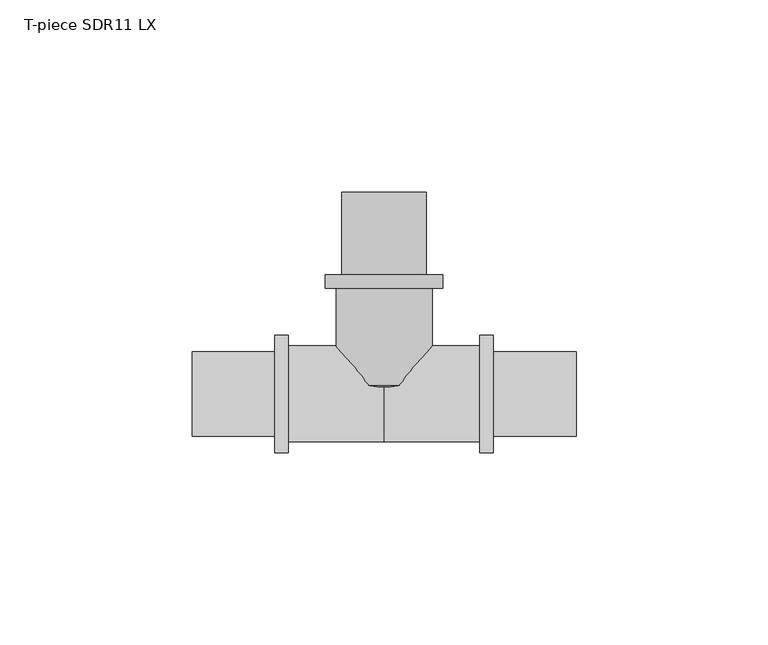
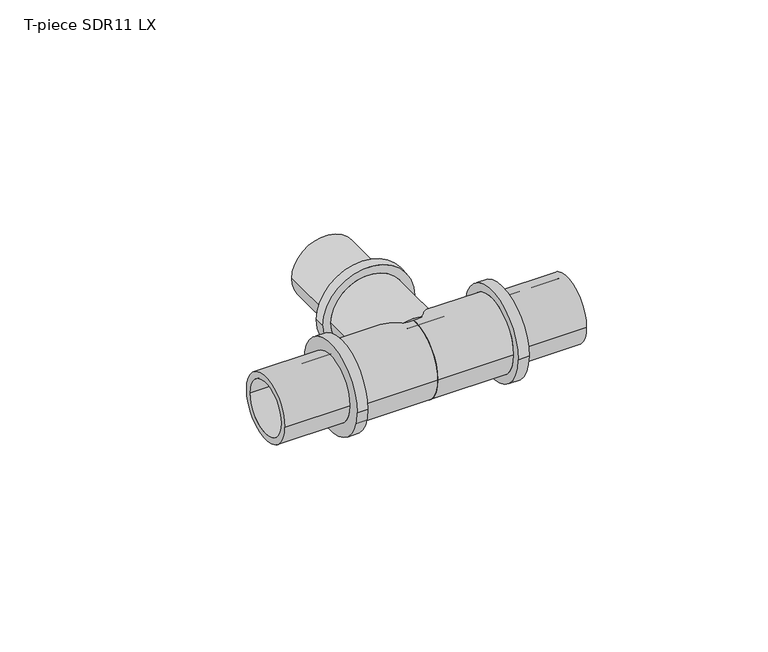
"""IFC4 building model written with IfcOpenShell, lengths in millimetres: pipe fitting geometry, T-piece SDR11 LX : T-piece LX SDR11 LX."""

import ifcopenshell
import ifcopenshell.guid

model = None  # the IFC model being written
_history = None  # IfcOwnerHistory: only IFC2X3 demands one
_inside = {}  # id of a spatial element -> (the spatial element, [elements in it])
_under = {}  # id of a project, library or spatial element -> (it, [spatial elements below it])
_declared = {}  # id of a project -> (the project, [libraries it declares])
_typed = {}  # id of a type object -> (the type object, [elements of that type])
_made_of = {}  # id of a material, layer set ... -> (it, [elements and type objects made of it])


def new_model(schema):
    """Start an empty IFC model of exactly this schema.

    Asked for "IFC4X3", IfcOpenShell would pick the latest addendum, in which some entities
    have other attributes; the version numbers below select the first issue.
    IFC2X3 requires an IfcOwnerHistory on every rooted entity: one is made here for all.
    """
    global model, _history
    if schema == "IFC4X3":
        model = ifcopenshell.file(schema_version=(4, 3, 0, 0))
    else:
        model = ifcopenshell.file(schema=schema)
    _inside.clear()
    _under.clear()
    _declared.clear()
    _typed.clear()
    _made_of.clear()
    _history = None
    if model.schema == "IFC2X3":
        org = make("IfcOrganization", Name="unknown")
        user = make(
            "IfcPersonAndOrganization",
            ThePerson=make("IfcPerson", FamilyName="unknown"),
            TheOrganization=org,
        )
        app = make(
            "IfcApplication",
            ApplicationDeveloper=org,
            Version="unknown",
            ApplicationFullName="unknown",
            ApplicationIdentifier="unknown",
        )
        _history = make(
            "IfcOwnerHistory",
            OwningUser=user,
            OwningApplication=app,
            ChangeAction="ADDED",
            CreationDate=0,
        )
    return model


def make(cls, **values):
    """One entity of the class cls with the attributes given. An attribute that is None is left unset."""
    return model.create_entity(
        cls, **{name: value for name, value in values.items() if value is not None}
    )


def rooted(cls, **values):
    """An entity with a GlobalId (a new one), such as an element, a storey or a relation."""
    return make(cls, GlobalId=ifcopenshell.guid.new(), OwnerHistory=_history, **values)


def si_unit(unit_type, name, prefix=None):
    """IfcSIUnit, for example si_unit("LENGTHUNIT", "METRE", prefix="MILLI")."""
    return make("IfcSIUnit", UnitType=unit_type, Prefix=prefix, Name=name)


def assignment(units):
    """IfcUnitAssignment: the units of a project."""
    return None if units is None else make("IfcUnitAssignment", Units=units)


def point(xyz):
    """IfcCartesianPoint."""
    return None if xyz is None else make("IfcCartesianPoint", Coordinates=xyz)


def direction(xyz):
    """IfcDirection."""
    return None if xyz is None else make("IfcDirection", DirectionRatios=xyz)


def frame(location, z_axis=None, x_axis=None):
    """IfcAxis2Placement3D, a coordinate frame: its origin and axes. An axis left out is left unset."""
    return make(
        "IfcAxis2Placement3D",
        Location=point(location),
        Axis=direction(z_axis),
        RefDirection=direction(x_axis),
    )


def origin():
    """The frame at (0, 0, 0) with its axes left unset."""
    return frame((0.0, 0.0, 0.0))


def place(relative_to, where):
    """IfcLocalPlacement: puts the frame where relative to a parent placement (None: the world)."""
    return make(
        "IfcLocalPlacement", PlacementRelTo=relative_to, RelativePlacement=where
    )


def context(
    kind, dimensions, precision=None, world=None, true_north=None, identifier=None
):
    """IfcGeometricRepresentationContext, for example the 3D "Model" context."""
    return make(
        "IfcGeometricRepresentationContext",
        ContextIdentifier=identifier,
        ContextType=kind,
        CoordinateSpaceDimension=dimensions,
        Precision=precision,
        WorldCoordinateSystem=world,
        TrueNorth=true_north,
    )


def project(units=None, contexts=None):
    """IfcProject with its units and contexts."""
    return rooted(
        "IfcProject",
        Name="project",
        RepresentationContexts=contexts,
        UnitsInContext=assignment(units),
    )


def spatial(cls, under=None, at=None, **own):
    """A site, building, storey or space (cls), placed at a placement, below another one or the project."""
    s = rooted(cls, ObjectPlacement=at, **own)
    if under is not None:
        _under.setdefault(under.id(), (under, []))[1].append(s)
    return s


def polyline(points):
    """IfcPolyline through the points."""
    return make("IfcPolyline", Points=[point(p) for p in points])


def circle_curve(where, radius):
    """IfcCircle in the frame where."""
    return make("IfcCircle", Position=where, Radius=radius)


def ellipse_curve(where, semi_axis1, semi_axis2):
    """IfcEllipse in the frame where."""
    return make(
        "IfcEllipse", Position=where, SemiAxis1=semi_axis1, SemiAxis2=semi_axis2
    )


def trimmed(basis, trim1, trim2, sense, master):
    """IfcTrimmedCurve: the piece of a basis curve between two trims."""
    return make(
        "IfcTrimmedCurve",
        BasisCurve=basis,
        Trim1=trim1,
        Trim2=trim2,
        SenseAgreement=sense,
        MasterRepresentation=master,
    )


def shape(context_of_items, identifier, shape_type, items):
    """IfcShapeRepresentation: the items that make up one representation, for example the "Body"."""
    return make(
        "IfcShapeRepresentation",
        ContextOfItems=context_of_items,
        RepresentationIdentifier=identifier,
        RepresentationType=shape_type,
        Items=items,
    )


def source(mapping_origin, context_of_items, identifier, shape_type, items):
    """IfcRepresentationMap: a shape defined once, which mapped items show again and again."""
    return make(
        "IfcRepresentationMap",
        MappingOrigin=mapping_origin,
        MappedRepresentation=shape(context_of_items, identifier, shape_type, items),
    )


def transform(
    local_origin,
    x_axis=None,
    y_axis=None,
    z_axis=None,
    scale=None,
    scale2=None,
    scale3=None,
    uniform=True,
):
    """IfcCartesianTransformationOperator3D, or its non-uniform kind. x_axis, y_axis, z_axis: its Axis1, 2, 3."""
    if uniform:
        return make(
            "IfcCartesianTransformationOperator3D",
            Axis1=direction(x_axis),
            Axis2=direction(y_axis),
            LocalOrigin=point(local_origin),
            Scale=scale,
            Axis3=direction(z_axis),
        )
    return make(
        "IfcCartesianTransformationOperator3DnonUniform",
        Axis1=direction(x_axis),
        Axis2=direction(y_axis),
        LocalOrigin=point(local_origin),
        Scale=scale,
        Axis3=direction(z_axis),
        Scale2=scale2,
        Scale3=scale3,
    )


def mapped(mapping_source, mapping_target):
    """IfcMappedItem: shows the shape of a source again, moved by a transform."""
    return make(
        "IfcMappedItem", MappingSource=mapping_source, MappingTarget=mapping_target
    )


def made_of(thing, what):
    """Note that an element or type object is made of a material, layer set ...; save() writes the relation."""
    if what is not None:
        _made_of.setdefault(what.id(), (what, []))[1].append(thing)
    return thing


def element(
    cls,
    number,
    at=None,
    inside=None,
    cuts=None,
    type_object=None,
    material=None,
    context=None,
    identifier="Body",
    shape_type=None,
    held_by="IfcProductDefinitionShape",
    body=None,
    shapes=None,
    **own,
):
    """One element of the class cls, such as IfcWall. Its Tag is "e" and its number.

    at: its placement. inside: the storey or other place that contains it. cuts: it is an
    opening in that element (IfcRelVoidsElement). A single representation is given by context,
    identifier, shape_type and body (its items); several are given by shapes. held_by: the class
    of the entity that holds the representations. save() writes the other relations.
    """
    e = rooted(cls, Tag="e%d" % number, ObjectPlacement=at, **own)
    if body is not None:
        shapes = [shape(context, identifier, shape_type, body)]
    if shapes is not None:
        e.Representation = make(held_by, Representations=shapes)
    if inside is not None:
        _inside.setdefault(inside.id(), (inside, []))[1].append(e)
    if cuts is not None:
        rooted(
            "IfcRelVoidsElement", RelatingBuildingElement=cuts, RelatedOpeningElement=e
        )
    if type_object is not None:
        _typed.setdefault(type_object.id(), (type_object, []))[1].append(e)
    return made_of(e, material)


def aggregate(whole, parts):
    """IfcRelAggregates: a whole, such as a stair, and the parts it consists of."""
    return rooted("IfcRelAggregates", RelatingObject=whole, RelatedObjects=parts)


def save(model, path):
    """Write the relations noted so far, then the file.

    IfcRelAggregates (storeys below a building ...), IfcRelContainedInSpatialStructure (elements
    in a storey), IfcRelDefinesByType, IfcRelAssociatesMaterial and IfcRelDeclares: one each for
    every whole, place, type object, material and project.
    """
    for whole, parts in _under.values():
        aggregate(whole, parts)
    for where, things in _inside.values():
        rooted(
            "IfcRelContainedInSpatialStructure",
            RelatedElements=things,
            RelatingStructure=where,
        )
    for kind, things in _typed.values():
        rooted("IfcRelDefinesByType", RelatedObjects=things, RelatingType=kind)
    for what, things in _made_of.values():
        rooted("IfcRelAssociatesMaterial", RelatedObjects=things, RelatingMaterial=what)
    for by, libraries in _declared.values():
        rooted("IfcRelDeclares", RelatingContext=by, RelatedDefinitions=libraries)
    model.write(path)


def plane_surface(at):
    """IfcPlane: the flat surface through the origin of the frame at, square to its z axis."""
    return make("IfcPlane", Position=at)


def cylinder_surface(at, radius):
    """IfcCylindricalSurface: all points at the distance radius from the z axis of the frame at."""
    return make("IfcCylindricalSurface", Position=at, Radius=radius)


def revolved_surface(curve, axis_point, axis_direction):
    """IfcSurfaceOfRevolution: the curve turned about the line through axis_point along axis_direction."""
    return make(
        "IfcSurfaceOfRevolution",
        SweptCurve=make("IfcArbitraryOpenProfileDef", ProfileType="CURVE", Curve=curve),
        AxisPosition=make("IfcAxis1Placement", Location=point(axis_point), Axis=direction(axis_direction)),
    )


def advanced_brep(points, edges, surfaces, faces):
    """IfcAdvancedBrep: a solid bounded by faces that lie on surfaces and meet in shared edges.

    An edge is (start, end): straight between two places in points (the first is 0);
    or (start, end, curve); or (start, end, curve, False) where it runs against its curve.
    A face is (place in surfaces, loops), or (place, loops, False) where it looks against
    its surface's normal. A loop lists edges by number (the first is 1), with a minus sign
    where the edge is run from its end to its start. The first loop is the outer one.
    """
    corners = [point(p) for p in points]
    vertices = [make("IfcVertexPoint", VertexGeometry=c) for c in corners]
    made = []
    for start, end, *more in edges:
        made.append(
            make(
                "IfcEdgeCurve",
                EdgeStart=vertices[start],
                EdgeEnd=vertices[end],
                EdgeGeometry=more[0] if more else make("IfcPolyline", Points=[corners[start], corners[end]]),
                SameSense=more[1] if len(more) > 1 else True,
            )
        )
    hull = []
    for where, loops, *sense in faces:
        bounds = []
        for j, loop in enumerate(loops):
            ring = [make("IfcOrientedEdge", EdgeElement=made[abs(k) - 1], Orientation=k > 0) for k in loop]
            bounds.append(
                make(
                    "IfcFaceOuterBound" if j == 0 else "IfcFaceBound",
                    Bound=make("IfcEdgeLoop", EdgeList=ring),
                    Orientation=True,
                )
            )
        hull.append(make("IfcAdvancedFace", Bounds=bounds, FaceSurface=surfaces[where], SameSense=sense[0] if sense else True))
    return make("IfcAdvancedBrep", Outer=make("IfcClosedShell", CfsFaces=hull))


def t_piece_sdr11_lx_7e9e5686(model_context):
    return source(origin(), model_context, "Body", "AdvancedBrep", [
        advanced_brep(
        [(12.5, 2.2621268, 0.0), (-12.5, 2.2621268, 0.0), (-12.5, 27.5, 0.0), (12.5, 27.5, 0.0), (8.9, 52.6, 0.0), (-8.9, 52.6, 0.0), (-8.9, 0.0, 0.0), (8.9, 0.0, 0.0), (11.0, 31.1, 0.0), (-11.0, 31.1, 0.0), (-11.0, 52.6, 0.0), (11.0, 52.6, 0.0), (15.25, 27.5, 0.0), (-15.25, 27.5, 0.0), (-15.25, 31.1, 0.0), (15.25, 31.1, 0.0)],
        [
            (0, 1, circle_curve(frame((0.0, 2.2621268, 0.0), z_axis=(0.0, 1.0, 0.0), x_axis=(-1.0, 0.0, 0.0)), 12.5)),
            (1, 2),
            (2, 3, circle_curve(frame((0.0, 27.5, 0.0), z_axis=(0.0, -1.0, 0.0), x_axis=(-1.0, 0.0, 0.0)), 12.5)),
            (3, 0),
            (4, 5, circle_curve(frame((0.0, 52.6, 0.0), z_axis=(0.0, 1.0, 0.0), x_axis=(-1.0, 0.0, 0.0)), 8.9)),
            (5, 6),
            (6, 7, circle_curve(frame((0.0, 0.0, 0.0), z_axis=(0.0, -1.0, 0.0), x_axis=(-1.0, 0.0, 0.0)), 8.9)),
            (7, 4),
            (8, 9, circle_curve(frame((0.0, 31.1, 0.0), z_axis=(0.0, 1.0, 0.0), x_axis=(-1.0, 0.0, 0.0)), 11.0)),
            (9, 10),
            (10, 11, circle_curve(frame((0.0, 52.6, 0.0), z_axis=(0.0, -1.0, 0.0), x_axis=(-1.0, 0.0, 0.0)), 11.0)),
            (11, 8),
            (12, 13, circle_curve(frame((0.0, 27.5, 0.0), z_axis=(0.0, 1.0, 0.0), x_axis=(-1.0, 0.0, 0.0)), 15.25)),
            (13, 14),
            (14, 15, circle_curve(frame((0.0, 31.1, 0.0), z_axis=(0.0, -1.0, 0.0), x_axis=(-1.0, 0.0, 0.0)), 15.25)),
            (15, 12),
            (12, 13, circle_curve(frame((0.0, 27.5, 0.0), z_axis=(0.0, -1.0, 0.0), x_axis=(1.0, 0.0, 0.0)), 15.25)),
            (2, 3, circle_curve(frame((0.0, 27.5, 0.0), z_axis=(0.0, 1.0, 0.0), x_axis=(1.0, 0.0, 0.0)), 12.5)),
            (1, 0, circle_curve(frame((0.0, 2.2621268, 0.0), z_axis=(0.0, 1.0, 0.0), x_axis=(1.0, 0.0, 0.0)), 12.5)),
            (5, 4, circle_curve(frame((0.0, 52.6, 0.0), z_axis=(0.0, 1.0, 0.0), x_axis=(1.0, 0.0, 0.0)), 8.9)),
            (7, 6, circle_curve(frame((0.0, 0.0, 0.0), z_axis=(0.0, -1.0, 0.0), x_axis=(1.0, 0.0, 0.0)), 8.9)),
            (10, 11, circle_curve(frame((0.0, 52.6, 0.0), z_axis=(0.0, 1.0, 0.0), x_axis=(1.0, 0.0, 0.0)), 11.0)),
            (9, 8, circle_curve(frame((0.0, 31.1, 0.0), z_axis=(0.0, 1.0, 0.0), x_axis=(1.0, 0.0, 0.0)), 11.0)),
            (14, 15, circle_curve(frame((0.0, 31.1, 0.0), z_axis=(0.0, 1.0, 0.0), x_axis=(1.0, 0.0, 0.0)), 15.25)),
            (6, 1, circle_curve(frame((-4.1462802, 11.5608022, 0.0), z_axis=(0.0, 0.0, -1.0), x_axis=(0.0, -1.0, 0.0)), 12.5)),
            (0, 7, circle_curve(frame((4.1462802, 11.5608022, 0.0), z_axis=(0.0, 0.0, -1.0), x_axis=(0.0, -1.0, 0.0)), 12.5)),
        ],
        [
            cylinder_surface(frame((0.0, 0.0, 0.0), z_axis=(0.0, -1.0, 0.0), x_axis=(-1.0, 0.0, 0.0)), 12.5),
            revolved_surface(polyline([(-8.9, 0.0, 0.0), (-8.9, 52.6, 0.0)]), (0.0, 0.0, 0.0), (0.0, -1.0, 0.0)),
            cylinder_surface(frame((0.0, 0.0, 0.0), z_axis=(0.0, -1.0, 0.0), x_axis=(-1.0, 0.0, 0.0)), 11.0),
            cylinder_surface(frame((0.0, 0.0, 0.0), z_axis=(0.0, -1.0, 0.0), x_axis=(-1.0, 0.0, 0.0)), 15.25),
            plane_surface(frame((0.0, 27.5, 0.0), z_axis=(0.0, -1.0, 0.0), x_axis=(1.0, 0.0, 0.0))),
            cylinder_surface(frame((0.0, 0.0, 0.0), z_axis=(0.0, -1.0, 0.0), x_axis=(1.0, 0.0, 0.0)), 12.5),
            revolved_surface(polyline([(8.9, 0.0, 0.0), (8.9, 52.6, 0.0)]), (0.0, 0.0, 0.0), (0.0, -1.0, 0.0)),
            plane_surface(frame((0.0, 52.6, 0.0), z_axis=(0.0, 1.0, 0.0), x_axis=(1.0, 0.0, 0.0))),
            cylinder_surface(frame((0.0, 0.0, 0.0), z_axis=(0.0, -1.0, 0.0), x_axis=(1.0, 0.0, 0.0)), 11.0),
            plane_surface(frame((0.0, 31.1, 0.0), z_axis=(0.0, 1.0, 0.0), x_axis=(1.0, 0.0, 0.0))),
            cylinder_surface(frame((0.0, 0.0, 0.0), z_axis=(0.0, -1.0, 0.0), x_axis=(1.0, 0.0, 0.0)), 15.25),
            revolved_surface(trimmed(ellipse_curve(frame((-4.1462802, 11.5608022, 0.0), z_axis=(0.0, 0.0, 1.0), x_axis=(0.0, -1.0, 0.0)), 12.5, 12.5), [point((-12.5, 2.2621268, 0.0))], [point((-8.9, 0.0, 0.0))], True, "CARTESIAN"), (0.0, 0.0, 0.0), (0.0, -1.0, 0.0)),
            revolved_surface(trimmed(ellipse_curve(frame((4.1462802, 11.5608022, 0.0), z_axis=(0.0, 0.0, -1.0), x_axis=(0.0, -1.0, 0.0)), 12.5, 12.5), [point((12.5, 2.2621268, 0.0))], [point((8.9, 0.0, 0.0))], True, "CARTESIAN"), (0.0, 0.0, 0.0), (0.0, -1.0, 0.0)),
        ],
        [
            (0, [[1, 2, 3, 4]]),
            (1, [[5, 6, 7, 8]]),
            (2, [[9, 10, 11, 12]]),
            (3, [[13, 14, 15, 16]]),
            (4, [[17, -13], [18, -3]]),
            (5, [[19, -4, -18, -2]]),
            (6, [[20, -8, 21, -6]]),
            (7, [[22, -11], [-20, -5]]),
            (8, [[23, -12, -22, -10]]),
            (9, [[24, -15], [-23, -9]]),
            (10, [[-17, -16, -24, -14]]),
            (11, [[-7, 25, -1, 26]]),
            (12, [[-21, -26, -19, -25]]),
        ],
    ),
        advanced_brep(
        [(24.9, 12.5, 0.0), (24.9, -12.5, 0.0), (0.0, -12.5, 0.0), (0.0, 12.5, 0.0), (0.0, 8.9, 0.0), (0.0, -8.9, 0.0), (50.0, -8.9, 0.0), (50.0, 8.9, 0.0), (50.0, 11.0, 0.0), (50.0, -11.0, 0.0), (28.5, -11.0, 0.0), (28.5, 11.0, 0.0), (28.5, 15.25, 0.0), (28.5, -15.25, 0.0), (24.9, -15.25, 0.0), (24.9, 15.25, 0.0)],
        [
            (0, 1, circle_curve(frame((24.9, 0.0, 0.0), z_axis=(-1.0, 0.0, 0.0), x_axis=(0.0, -1.0, 0.0)), 12.5)),
            (1, 2),
            (2, 3, circle_curve(frame((0.0, 0.0, 0.0), z_axis=(1.0, 0.0, 0.0), x_axis=(0.0, -1.0, 0.0)), 12.5)),
            (3, 0),
            (4, 5, circle_curve(frame((0.0, 0.0, 0.0), z_axis=(-1.0, 0.0, 0.0), x_axis=(0.0, -1.0, 0.0)), 8.9)),
            (5, 6),
            (6, 7, circle_curve(frame((50.0, 0.0, 0.0), z_axis=(1.0, 0.0, 0.0), x_axis=(0.0, -1.0, 0.0)), 8.9)),
            (7, 4),
            (8, 9, circle_curve(frame((50.0, 0.0, 0.0), z_axis=(-1.0, 0.0, 0.0), x_axis=(0.0, -1.0, 0.0)), 11.0)),
            (9, 10),
            (10, 11, circle_curve(frame((28.5, 0.0, 0.0), z_axis=(1.0, 0.0, 0.0), x_axis=(0.0, -1.0, 0.0)), 11.0)),
            (11, 8),
            (12, 13, circle_curve(frame((28.5, 0.0, 0.0), z_axis=(-1.0, 0.0, 0.0), x_axis=(0.0, -1.0, 0.0)), 15.25)),
            (13, 14),
            (14, 15, circle_curve(frame((24.9, 0.0, 0.0), z_axis=(1.0, 0.0, 0.0), x_axis=(0.0, -1.0, 0.0)), 15.25)),
            (15, 12),
            (14, 15, circle_curve(frame((24.9, 0.0, 0.0), z_axis=(-1.0, 0.0, 0.0), x_axis=(0.0, 1.0, 0.0)), 15.25)),
            (0, 1, circle_curve(frame((24.9, 0.0, 0.0), z_axis=(1.0, 0.0, 0.0), x_axis=(0.0, 1.0, 0.0)), 12.5)),
            (3, 2, circle_curve(frame((0.0, 0.0, 0.0), z_axis=(1.0, 0.0, 0.0), x_axis=(0.0, 1.0, 0.0)), 12.5)),
            (4, 5, circle_curve(frame((0.0, 0.0, 0.0), z_axis=(1.0, 0.0, 0.0), x_axis=(0.0, 1.0, 0.0)), 8.9)),
            (7, 6, circle_curve(frame((50.0, 0.0, 0.0), z_axis=(1.0, 0.0, 0.0), x_axis=(0.0, 1.0, 0.0)), 8.9)),
            (8, 9, circle_curve(frame((50.0, 0.0, 0.0), z_axis=(1.0, 0.0, 0.0), x_axis=(0.0, 1.0, 0.0)), 11.0)),
            (11, 10, circle_curve(frame((28.5, 0.0, 0.0), z_axis=(1.0, 0.0, 0.0), x_axis=(0.0, 1.0, 0.0)), 11.0)),
            (12, 13, circle_curve(frame((28.5, 0.0, 0.0), z_axis=(1.0, 0.0, 0.0), x_axis=(0.0, 1.0, 0.0)), 15.25)),
        ],
        [
            cylinder_surface(frame((0.0, 0.0, 0.0), z_axis=(1.0, 0.0, 0.0), x_axis=(0.0, -1.0, 0.0)), 12.5),
            revolved_surface(polyline([(50.0, -8.9, 0.0), (0.0, -8.9, 0.0)]), (0.0, 0.0, 0.0), (1.0, 0.0, 0.0)),
            cylinder_surface(frame((0.0, 0.0, 0.0), z_axis=(1.0, 0.0, 0.0), x_axis=(0.0, -1.0, 0.0)), 11.0),
            cylinder_surface(frame((0.0, 0.0, 0.0), z_axis=(1.0, 0.0, 0.0), x_axis=(0.0, -1.0, 0.0)), 15.25),
            plane_surface(frame((24.9, 0.0, 0.0), z_axis=(-1.0, 0.0, 0.0), x_axis=(0.0, 1.0, 0.0))),
            cylinder_surface(frame((0.0, 0.0, 0.0), z_axis=(1.0, 0.0, 0.0), x_axis=(0.0, 1.0, 0.0)), 12.5),
            plane_surface(frame((0.0, 0.0, 0.0), z_axis=(-1.0, 0.0, 0.0), x_axis=(0.0, 1.0, 0.0))),
            revolved_surface(polyline([(50.0, 8.9, 0.0), (0.0, 8.9, 0.0)]), (0.0, 0.0, 0.0), (1.0, 0.0, 0.0)),
            plane_surface(frame((50.0, 0.0, 0.0), z_axis=(1.0, 0.0, 0.0), x_axis=(0.0, 1.0, 0.0))),
            cylinder_surface(frame((0.0, 0.0, 0.0), z_axis=(1.0, 0.0, 0.0), x_axis=(0.0, 1.0, 0.0)), 11.0),
            plane_surface(frame((28.5, 0.0, 0.0), z_axis=(1.0, 0.0, 0.0), x_axis=(0.0, 1.0, 0.0))),
            cylinder_surface(frame((0.0, 0.0, 0.0), z_axis=(1.0, 0.0, 0.0), x_axis=(0.0, 1.0, 0.0)), 15.25),
        ],
        [
            (0, [[1, 2, 3, 4]]),
            (1, [[5, 6, 7, 8]]),
            (2, [[9, 10, 11, 12]]),
            (3, [[13, 14, 15, 16]]),
            (4, [[17, -15], [18, -1]]),
            (5, [[-18, -4, 19, -2]]),
            (6, [[-19, -3], [20, -5]]),
            (7, [[-20, -8, 21, -6]]),
            (8, [[22, -9], [-21, -7]]),
            (9, [[-22, -12, 23, -10]]),
            (10, [[24, -13], [-23, -11]]),
            (11, [[-24, -16, -17, -14]]),
        ],
    ),
        advanced_brep(
        [(0.0, 12.5, 0.0), (0.0, -12.5, 0.0), (-24.9, -12.5, 0.0), (-24.9, 12.5, 0.0), (-50.0, 8.9, 0.0), (-50.0, -8.9, 0.0), (0.0, -8.9, 0.0), (0.0, 8.9, 0.0), (-28.5, 11.0, 0.0), (-28.5, -11.0, 0.0), (-50.0, -11.0, 0.0), (-50.0, 11.0, 0.0), (-24.9, 15.25, 0.0), (-24.9, -15.25, 0.0), (-28.5, -15.25, 0.0), (-28.5, 15.25, 0.0)],
        [
            (0, 1, circle_curve(frame((0.0, 0.0, 0.0), z_axis=(-1.0, 0.0, 0.0), x_axis=(0.0, -1.0, 0.0)), 12.5)),
            (1, 2),
            (2, 3, circle_curve(frame((-24.9, 0.0, 0.0), z_axis=(1.0, 0.0, 0.0), x_axis=(0.0, -1.0, 0.0)), 12.5)),
            (3, 0),
            (4, 5, circle_curve(frame((-50.0, 0.0, 0.0), z_axis=(-1.0, 0.0, 0.0), x_axis=(0.0, -1.0, 0.0)), 8.9)),
            (5, 6),
            (6, 7, circle_curve(frame((0.0, 0.0, 0.0), z_axis=(1.0, 0.0, 0.0), x_axis=(0.0, -1.0, 0.0)), 8.9)),
            (7, 4),
            (8, 9, circle_curve(frame((-28.5, 0.0, 0.0), z_axis=(-1.0, 0.0, 0.0), x_axis=(0.0, -1.0, 0.0)), 11.0)),
            (9, 10),
            (10, 11, circle_curve(frame((-50.0, 0.0, 0.0), z_axis=(1.0, 0.0, 0.0), x_axis=(0.0, -1.0, 0.0)), 11.0)),
            (11, 8),
            (12, 13, circle_curve(frame((-24.9, 0.0, 0.0), z_axis=(-1.0, 0.0, 0.0), x_axis=(0.0, -1.0, 0.0)), 15.25)),
            (13, 14),
            (14, 15, circle_curve(frame((-28.5, 0.0, 0.0), z_axis=(1.0, 0.0, 0.0), x_axis=(0.0, -1.0, 0.0)), 15.25)),
            (15, 12),
            (12, 13, circle_curve(frame((-24.9, 0.0, 0.0), z_axis=(1.0, 0.0, 0.0), x_axis=(0.0, 1.0, 0.0)), 15.25)),
            (2, 3, circle_curve(frame((-24.9, 0.0, 0.0), z_axis=(-1.0, 0.0, 0.0), x_axis=(0.0, 1.0, 0.0)), 12.5)),
            (1, 0, circle_curve(frame((0.0, 0.0, 0.0), z_axis=(-1.0, 0.0, 0.0), x_axis=(0.0, 1.0, 0.0)), 12.5)),
            (6, 7, circle_curve(frame((0.0, 0.0, 0.0), z_axis=(-1.0, 0.0, 0.0), x_axis=(0.0, 1.0, 0.0)), 8.9)),
            (5, 4, circle_curve(frame((-50.0, 0.0, 0.0), z_axis=(-1.0, 0.0, 0.0), x_axis=(0.0, 1.0, 0.0)), 8.9)),
            (10, 11, circle_curve(frame((-50.0, 0.0, 0.0), z_axis=(-1.0, 0.0, 0.0), x_axis=(0.0, 1.0, 0.0)), 11.0)),
            (9, 8, circle_curve(frame((-28.5, 0.0, 0.0), z_axis=(-1.0, 0.0, 0.0), x_axis=(0.0, 1.0, 0.0)), 11.0)),
            (14, 15, circle_curve(frame((-28.5, 0.0, 0.0), z_axis=(-1.0, 0.0, 0.0), x_axis=(0.0, 1.0, 0.0)), 15.25)),
        ],
        [
            cylinder_surface(frame((0.0, 0.0, 0.0), z_axis=(1.0, 0.0, 0.0), x_axis=(0.0, -1.0, 0.0)), 12.5),
            revolved_surface(polyline([(0.0, -8.9, 0.0), (-50.0, -8.9, 0.0)]), (0.0, 0.0, 0.0), (1.0, 0.0, 0.0)),
            cylinder_surface(frame((0.0, 0.0, 0.0), z_axis=(1.0, 0.0, 0.0), x_axis=(0.0, -1.0, 0.0)), 11.0),
            cylinder_surface(frame((0.0, 0.0, 0.0), z_axis=(1.0, 0.0, 0.0), x_axis=(0.0, -1.0, 0.0)), 15.25),
            plane_surface(frame((-24.9, 0.0, 0.0), z_axis=(1.0, 0.0, 0.0), x_axis=(0.0, 1.0, 0.0))),
            cylinder_surface(frame((0.0, 0.0, 0.0), z_axis=(1.0, 0.0, 0.0), x_axis=(0.0, 1.0, 0.0)), 12.5),
            plane_surface(frame((0.0, 0.0, 0.0), z_axis=(1.0, 0.0, 0.0), x_axis=(0.0, 1.0, 0.0))),
            revolved_surface(polyline([(0.0, 8.9, 0.0), (-50.0, 8.9, 0.0)]), (0.0, 0.0, 0.0), (1.0, 0.0, 0.0)),
            plane_surface(frame((-50.0, 0.0, 0.0), z_axis=(-1.0, 0.0, 0.0), x_axis=(0.0, 1.0, 0.0))),
            cylinder_surface(frame((0.0, 0.0, 0.0), z_axis=(1.0, 0.0, 0.0), x_axis=(0.0, 1.0, 0.0)), 11.0),
            plane_surface(frame((-28.5, 0.0, 0.0), z_axis=(-1.0, 0.0, 0.0), x_axis=(0.0, 1.0, 0.0))),
            cylinder_surface(frame((0.0, 0.0, 0.0), z_axis=(1.0, 0.0, 0.0), x_axis=(0.0, 1.0, 0.0)), 15.25),
        ],
        [
            (0, [[1, 2, 3, 4]]),
            (1, [[5, 6, 7, 8]]),
            (2, [[9, 10, 11, 12]]),
            (3, [[13, 14, 15, 16]]),
            (4, [[17, -13], [18, -3]]),
            (5, [[19, -4, -18, -2]]),
            (6, [[-19, -1], [20, -7]]),
            (7, [[21, -8, -20, -6]]),
            (8, [[22, -11], [-21, -5]]),
            (9, [[23, -12, -22, -10]]),
            (10, [[24, -15], [-23, -9]]),
            (11, [[-17, -16, -24, -14]]),
        ],
    ),
    ])


if __name__ == "__main__":
    model = new_model("IFC4")
    model_context = context("Model", 3, world=origin())
    ifc_project = project(units=[si_unit("LENGTHUNIT", "METRE", prefix="MILLI")], contexts=[model_context])
    site = spatial("IfcSite", under=ifc_project)
    building = spatial("IfcBuilding", under=site)
    placement = place(None, origin())
    t_piece_sdr11_lx_shape = t_piece_sdr11_lx_7e9e5686(model_context)
    element("IfcPipeFitting", 1, ObjectType="T-piece SDR11 LX : T-piece LX SDR11 LX", at=placement, inside=building, context=model_context, shape_type="MappedRepresentation", body=[
        mapped(t_piece_sdr11_lx_shape, transform((0.0, 0.0, 0.0), x_axis=(1.0, 0.0, 0.0), y_axis=(0.0, 1.0, 0.0), z_axis=(0.0, 0.0, 1.0))),
    ])
    save(model, "model.ifc")
